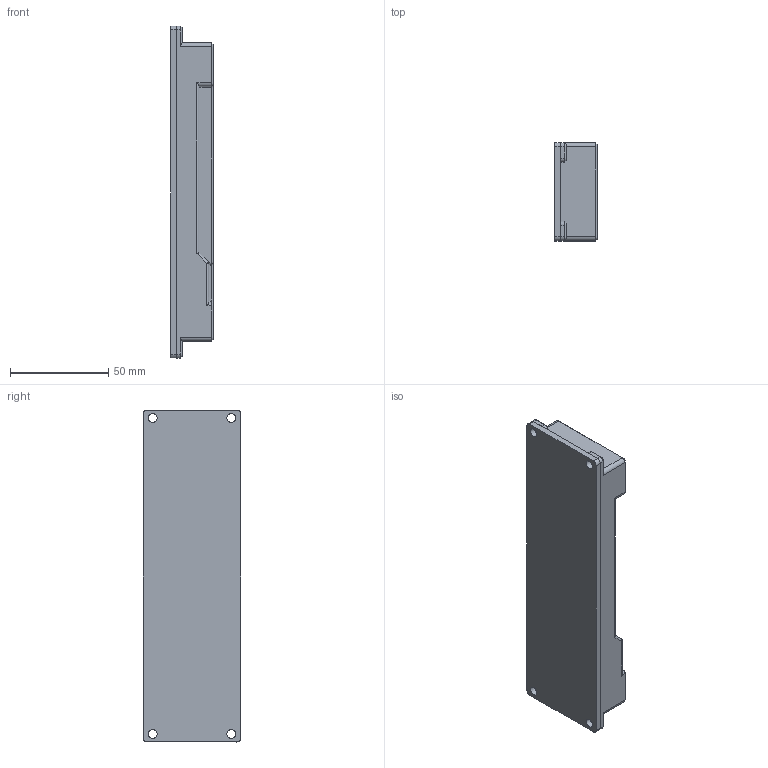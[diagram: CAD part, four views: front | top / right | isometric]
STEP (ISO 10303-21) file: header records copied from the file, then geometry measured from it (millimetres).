
FILE_DESCRIPTION(/* description */ (''),/* implementation_level */ '2;1');
FILE_NAME(/* name */ '\\192.168.101.115\営業本部\EG\X2\30BB30F330BF30FC\X0\\99_各個人\08_中村紗\３Ｄ\MDR○○切替用\HB-510.stp',/* time_stamp */ '2014-12-19T12:03:29+09:00',/* author */ ('UMME'),/* organization */ (''),/* preprocessor_version */ 'ST-DEVELOPER v15.2',/* originating_system */ 'Autodesk Inventor 2014',/* authorisation */ '');
FILE_SCHEMA (('AUTOMOTIVE_DESIGN { 1 0 10303 214 3 1 1 }'));
Length unit declared in the file: millimetre
Products named in the file (3): HB-510; 放熱板
Bounding box: 21.8 x 49.8 x 169 mm (x, y, z)
Volume: 146449.4 mm3; surface area: 43505.6 mm2
Topology: 2 solids, 2 shells, 154 faces, 404 edges, 254 vertices
Faces by surface type: plane 86, cylinder 46, cone 21, sphere 1
Full cylindrical faces by diameter (mm): 1.4 x7, 4.5 x8
Entity records: 4749 total; most frequent: CARTESIAN_POINT 817, DIRECTION 815, ORIENTED_EDGE 770, EDGE_CURVE 385, AXIS2_PLACEMENT_3D 274, LINE 267, VECTOR 267, VERTEX_POINT 250
